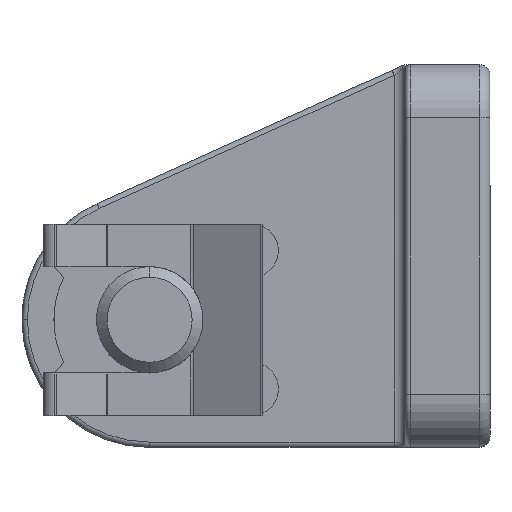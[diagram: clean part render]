
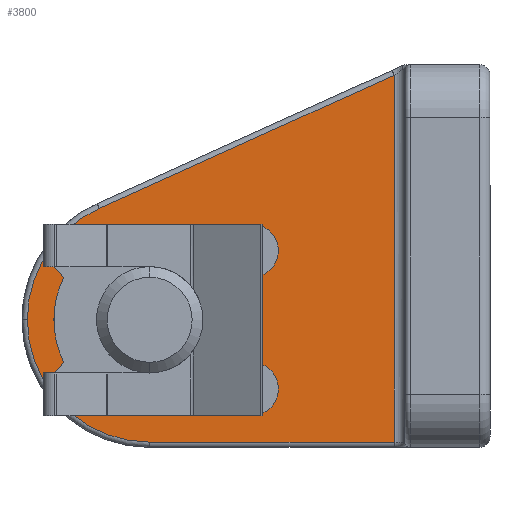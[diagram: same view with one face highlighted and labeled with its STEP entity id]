
A CAD part, left-side view. The second image highlights one B-rep face of the part: STEP entity #3800.
In plain terms, the highlighted planar face has unit normal (-1, 0, 0).
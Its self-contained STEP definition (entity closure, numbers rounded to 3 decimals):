
#7 = CIRCLE ( 'NONE', #56, 11.5 ) ;
#37 = CARTESIAN_POINT ( 'NONE',  ( -42., -23., 23. ) ) ;
#38 = CARTESIAN_POINT ( 'NONE',  ( -42., -23., -11.5 ) ) ;
#39 = DIRECTION ( 'NONE',  ( 0., 0., 1. ) ) ;
#40 = VECTOR ( 'NONE', #39, 1000. ) ;
#41 = CARTESIAN_POINT ( 'NONE',  ( -42., -23., 24. ) ) ;
#42 = LINE ( 'NONE', #41, #40 ) ;
#43 = DIRECTION ( 'NONE',  ( 0., 1., 0. ) ) ;
#44 = DIRECTION ( 'NONE',  ( 1., 0., 0. ) ) ;
#45 = CARTESIAN_POINT ( 'NONE',  ( -42., 12., 24.001 ) ) ;
#46 = AXIS2_PLACEMENT_3D ( 'NONE', #45, #44, #43 ) ;
#47 = PLANE ( 'NONE',  #46 ) ;
#48 = FACE_OUTER_BOUND ( 'NONE', #3864, .T. ) ;
#49 = FACE_BOUND ( 'NONE', #3801, .T. ) ;
#53 = DIRECTION ( 'NONE',  ( 0., 1., 0. ) ) ;
#54 = DIRECTION ( 'NONE',  ( -1., 0., 0. ) ) ;
#55 = CARTESIAN_POINT ( 'NONE',  ( -42., 0., 0. ) ) ;
#56 = AXIS2_PLACEMENT_3D ( 'NONE', #55, #54, #53 ) ;
#132 = CARTESIAN_POINT ( 'NONE',  ( -42., 4.732, 10.482 ) ) ;
#133 = DIRECTION ( 'NONE',  ( 0., 0.911, -0.411 ) ) ;
#134 = VECTOR ( 'NONE', #133, 1000. ) ;
#135 = CARTESIAN_POINT ( 'NONE',  ( -42., 4.732, 10.482 ) ) ;
#136 = LINE ( 'NONE', #135, #134 ) ;
#172 = CARTESIAN_POINT ( 'NONE',  ( -42., 0., 5. ) ) ;
#544 = CARTESIAN_POINT ( 'NONE',  ( -42., 0., -11.5 ) ) ;
#545 = DIRECTION ( 'NONE',  ( 0., 1., 0. ) ) ;
#546 = DIRECTION ( 'NONE',  ( -1., 0., 0. ) ) ;
#547 = CARTESIAN_POINT ( 'NONE',  ( -42., 0., 0. ) ) ;
#548 = AXIS2_PLACEMENT_3D ( 'NONE', #547, #546, #545 ) ;
#549 = CIRCLE ( 'NONE', #548, 11.5 ) ;
#550 = CARTESIAN_POINT ( 'NONE',  ( -42., 11.5, 0. ) ) ;
#738 = DIRECTION ( 'NONE',  ( 1., 0., 0. ) ) ;
#739 = CARTESIAN_POINT ( 'NONE',  ( -42., 0., 0. ) ) ;
#740 = AXIS2_PLACEMENT_3D ( 'NONE', #739, #738, #780 ) ;
#741 = CIRCLE ( 'NONE', #740, 5. ) ;
#779 = CARTESIAN_POINT ( 'NONE',  ( -42., 0., -5. ) ) ;
#780 = DIRECTION ( 'NONE',  ( 0., 1., 0. ) ) ;
#813 = DIRECTION ( 'NONE',  ( 0., -1., 0. ) ) ;
#814 = VECTOR ( 'NONE', #813, 1000. ) ;
#827 = CARTESIAN_POINT ( 'NONE',  ( -42., -23., -11.5 ) ) ;
#873 = LINE ( 'NONE', #827, #814 ) ;
#1353 = DIRECTION ( 'NONE',  ( 0., 1., 0. ) ) ;
#1354 = DIRECTION ( 'NONE',  ( 1., 0., 0. ) ) ;
#1355 = CARTESIAN_POINT ( 'NONE',  ( -42., 0., 0. ) ) ;
#1356 = AXIS2_PLACEMENT_3D ( 'NONE', #1355, #1354, #1353 ) ;
#1357 = CIRCLE ( 'NONE', #1356, 5. ) ;
#3760 = EDGE_CURVE ( 'NONE', #3874, #3761, #741, .T. ) ;
#3761 = VERTEX_POINT ( 'NONE', #779 ) ;
#3796 = ORIENTED_EDGE ( 'NONE', *, *, #3797, .T. ) ;
#3797 = EDGE_CURVE ( 'NONE', #3917, #4017, #7, .T. ) ;
#3798 = ORIENTED_EDGE ( 'NONE', *, *, #4018, .T. ) ;
#3800 = ADVANCED_FACE ( 'NONE', ( #49, #48 ), #47, .F. ) ;
#3801 = EDGE_LOOP ( 'NONE', ( #3862, #3863 ) ) ;
#3802 = EDGE_CURVE ( 'NONE', #3803, #3804, #42, .T. ) ;
#3803 = VERTEX_POINT ( 'NONE', #38 ) ;
#3804 = VERTEX_POINT ( 'NONE', #37 ) ;
#3851 = ORIENTED_EDGE ( 'NONE', *, *, #4219, .T. ) ;
#3862 = ORIENTED_EDGE ( 'NONE', *, *, #4763, .T. ) ;
#3863 = ORIENTED_EDGE ( 'NONE', *, *, #3760, .T. ) ;
#3864 = EDGE_LOOP ( 'NONE', ( #3865, #3915, #3796, #3798, #3851 ) ) ;
#3865 = ORIENTED_EDGE ( 'NONE', *, *, #3802, .T. ) ;
#3874 = VERTEX_POINT ( 'NONE', #172 ) ;
#3915 = ORIENTED_EDGE ( 'NONE', *, *, #3916, .T. ) ;
#3916 = EDGE_CURVE ( 'NONE', #3804, #3917, #136, .T. ) ;
#3917 = VERTEX_POINT ( 'NONE', #132 ) ;
#4017 = VERTEX_POINT ( 'NONE', #550 ) ;
#4018 = EDGE_CURVE ( 'NONE', #4017, #4019, #549, .T. ) ;
#4019 = VERTEX_POINT ( 'NONE', #544 ) ;
#4219 = EDGE_CURVE ( 'NONE', #4019, #3803, #873, .T. ) ;
#4763 = EDGE_CURVE ( 'NONE', #3761, #3874, #1357, .T. ) ;
